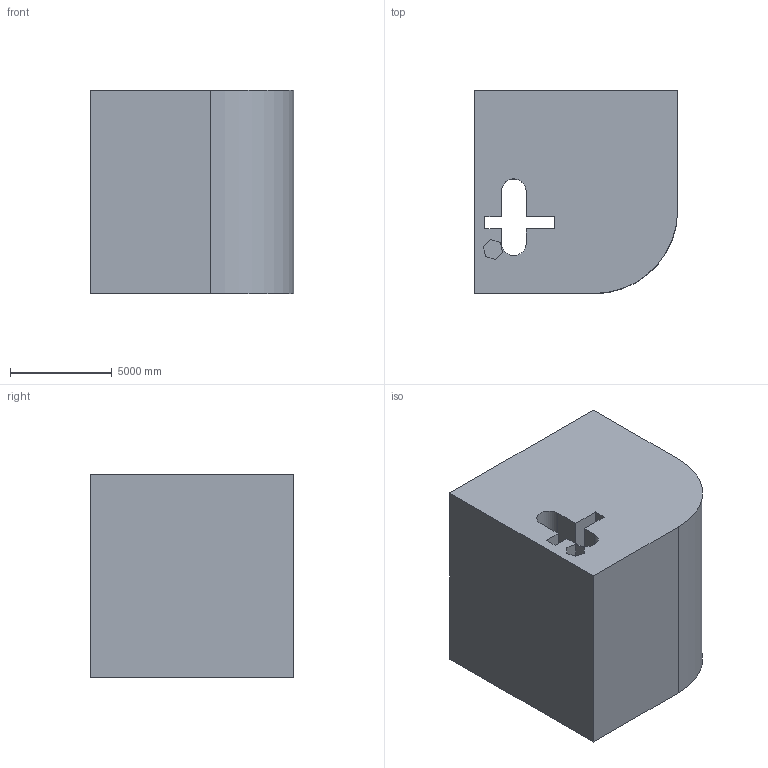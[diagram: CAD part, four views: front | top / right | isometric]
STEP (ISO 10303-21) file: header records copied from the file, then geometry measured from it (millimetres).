
FILE_DESCRIPTION (( 'STEP AP203' ), '1' );
FILE_NAME ('32.STEP', '2022-08-30T15:35:00', ( 'user' ), ( '' ), 'SwSTEP 2.0', 'SolidWorks 2021', '' );
FILE_SCHEMA (( 'CONFIG_CONTROL_DESIGN' ));
Length unit declared in the file: centimetre
Products named in the file (1): 32
Bounding box: 10000 x 10000 x 10000 mm (x, y, z)
Volume: 907415911960.6 mm3; surface area: 700344742.6 mm2
Topology: 1 solids, 1 shells, 26 faces, 69 edges, 46 vertices
Faces by surface type: plane 23, cylinder 3
Entity records: 880 total; most frequent: CARTESIAN_POINT 142, ORIENTED_EDGE 138, DIRECTION 129, EDGE_CURVE 69, LINE 63, VECTOR 63, VERTEX_POINT 46, AXIS2_PLACEMENT_3D 33
